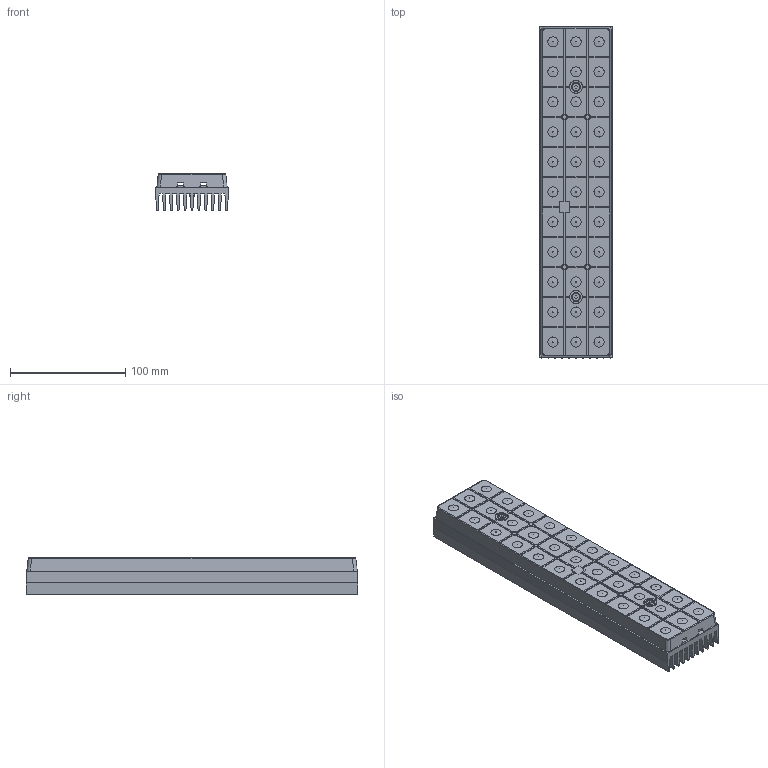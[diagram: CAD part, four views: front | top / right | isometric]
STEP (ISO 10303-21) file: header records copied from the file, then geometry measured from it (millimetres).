
FILE_DESCRIPTION(('STEP AP214'),'1');
FILE_NAME('PLL2312xx_assembled.stp','2023-05-23T08:38:15',(' '),(' '),'Spatial InterOp 3D',' ',' ');
FILE_SCHEMA(('AUTOMOTIVE_DESIGN { 1 0 10303 214 1 1 1 1 }'));
Length unit declared in the file: metre
Products named in the file (38): 1684832966; 1684832907; 1684829986; 1640259125; 1640259126; 1640259127; 1640259128; 1640259129; 1640259130; 1640259131; 1640259132; 1640259133; 1640259134; 1640259135; 1640259136; 1640259137; 1640259138; 1640259139; 1640259140; 1640259141; 1640259142; 1640259143; 1640259144; 1640259145; 1640259146; 1640259147; 1640259148; 1640259149; 1640259150; 1640259151; 1640259152; 1640259153; 1640259154; 1640259155; 1640259156; 1640259157; 1640259158; 1645092546
Bounding box: 62.5 x 287.5 x 32.5 mm (x, y, z)
Volume: 311818.9 mm3; surface area: 217298.7 mm2
Topology: 38 solids, 38 shells, 3468 faces, 11858 edges, 8596 vertices
Faces by surface type: plane 2476, cylinder 654, extrusion 115, cone 110, bspline 60, sphere 41, torus 12
Full cylindrical faces by diameter (mm): 0.2 x33, 1.6 x2, 2.5 x3, 3.3 x2, 3.5 x6, 4 x4, 4.5 x4, 7 x2, 8 x4
Entity records: 211367 total; most frequent: CARTESIAN_POINT 40482, ORIENTED_EDGE 23182, DIRECTION 14956, STYLED_ITEM 12881, PRESENTATION_STYLE_ASSIGNMENT 12881, COLOUR_RGB 12881, EDGE_CURVE 11591, CURVE_STYLE 9379
